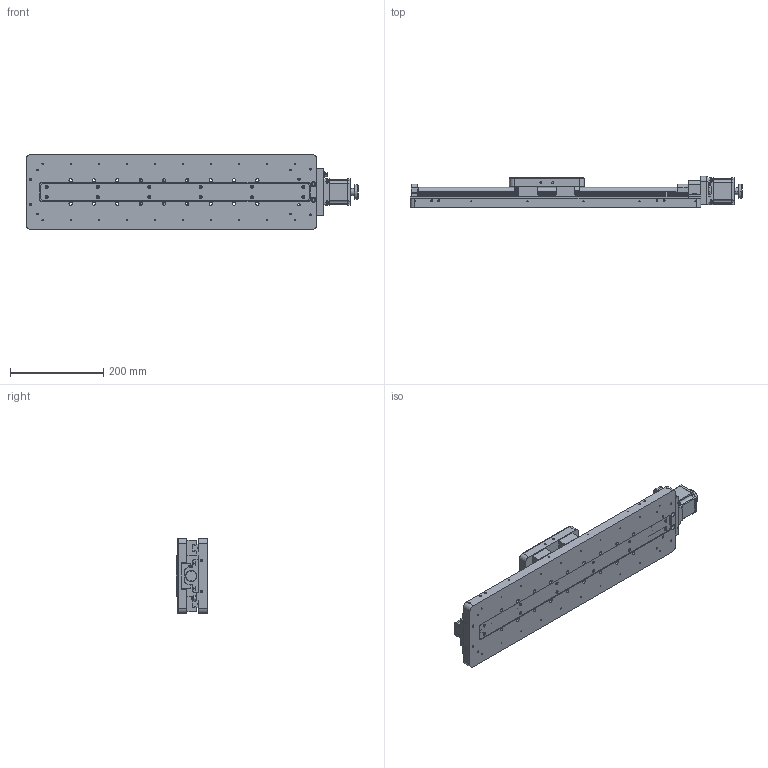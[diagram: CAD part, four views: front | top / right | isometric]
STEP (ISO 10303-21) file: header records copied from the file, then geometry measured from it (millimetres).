
FILE_DESCRIPTION (( 'STEP AP203' ), '1' );
FILE_NAME ('7STA03400Bµç¶¯Æ½ÒÆÌ¨.STEP', '2022-07-07T08:35:51', ( '' ), ( '' ), 'SwSTEP 2.0', 'SolidWorks 2018', '' );
FILE_SCHEMA (( 'CONFIG_CONTROL_DESIGN' ));
Products named in the file (1): 7STA03400B萇雄す痄怢
Bounding box: 711 x 66.5 x 160 mm (x, y, z)
Surface area: 492276.6 mm2 (no closed solid volume)
Topology: 0 solids, 134 shells, 1380 faces, 4845 edges, 3518 vertices
Faces by surface type: plane 627, cylinder 557, torus 102, cone 70, sphere 24
Entity records: 52829 total; most frequent: CARTESIAN_POINT 10412, DIRECTION 9371, ORIENTED_EDGE 7436, EDGE_CURVE 4771, VERTEX_POINT 3494, AXIS2_PLACEMENT_3D 3347, VECTOR 2677, LINE 2677
